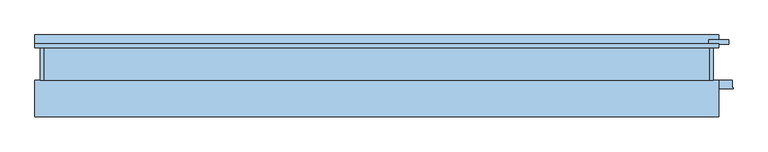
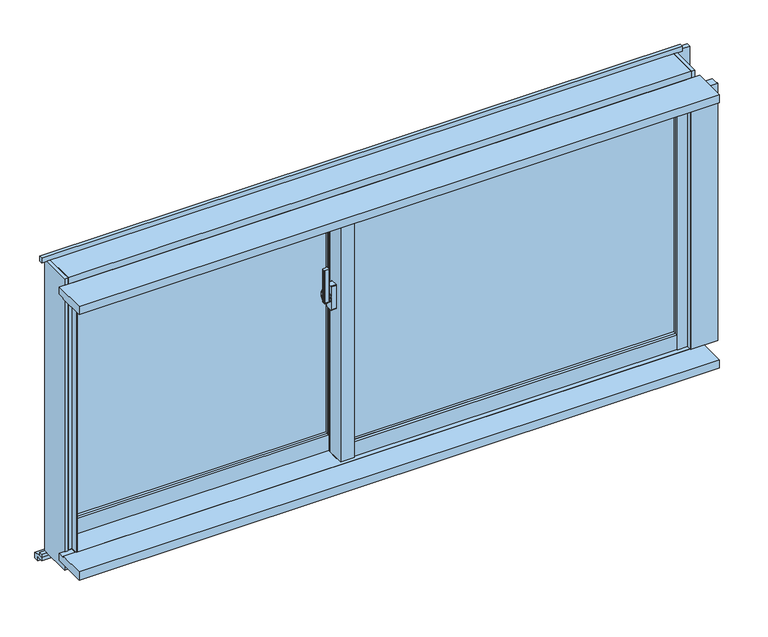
"""IFC4 building model written with IfcOpenShell, lengths in millimetres: window geometry, FNSⅡ100R_非防火_ALC枠_単窓 : 外動片引."""

from ifc_helpers import new_model, si_unit, point, frame, frame_2d, origin, place, context, project, spatial, polyline, circle_curve, trimmed, segment, composite_curve, outline, extrude, faceted_brep, source, transform, mapped, element, save
from ifc_brep_helpers import plane_surface, cylinder_surface, revolved_surface, advanced_brep


def window_993b28ac(model_context):
    return source(origin(), model_context, "Body", "SolidModel", [
        extrude(outline(composite_curve([segment(polyline([(-139.0, 14.6), (-139.0, 6.4)]), True, "CONTINUOUS"), segment(trimmed(circle_curve(frame_2d((-141.0, 6.4)), 2.0), [point((-139.0, 6.4))], [point((-141.3606557, 4.4327869))], False, "CARTESIAN"), True, "CONTINUOUS"), segment(polyline([(-141.3606557, 4.4327869), (-152.3606557, 6.4494536)]), True, "CONTINUOUS"), segment(trimmed(circle_curve(frame_2d((-152.0, 8.4166667)), 2.0), [point((-152.3606557, 6.4494536))], [point((-154.0, 8.4166667))], False, "CARTESIAN"), True, "CONTINUOUS"), segment(polyline([(-154.0, 8.4166667), (-154.0, 12.5833333)]), True, "CONTINUOUS"), segment(trimmed(circle_curve(frame_2d((-152.0, 12.5833333)), 2.0), [point((-154.0, 12.5833333))], [point((-152.3606557, 14.5505464))], False, "CARTESIAN"), True, "CONTINUOUS"), segment(polyline([(-152.3606557, 14.5505464), (-141.3606557, 16.5672131)]), True, "CONTINUOUS"), segment(trimmed(circle_curve(frame_2d((-141.0, 14.6)), 2.0), [point((-141.3606557, 16.5672131))], [point((-139.0, 14.6))], False, "CARTESIAN"), True, "CONTINUOUS")], self_intersect=False)), frame((0.0, 0.0, 1390.0), z_axis=(0.0, 0.0, 1.0), x_axis=(1.0, 0.0, 0.0)), (0.0, 0.0, 1.0), 100.0),
        advanced_brep(
        [(-137.5, 18.8234285, 1421.7333311), (-145.5, 18.8234285, 1421.7333311), (-145.5, 18.4351999, 1420.2844424), (-139.0, 18.4351999, 1420.2844424), (-139.0, 16.6234666, 1413.5229616), (-137.5, 16.6234666, 1413.5229616), (-139.0, 16.6466117, 1379.3190372), (-145.5, 16.6466117, 1379.3190372), (-145.5, 16.907084, 1377.8418256), (-137.5, 16.907084, 1377.8418256), (-137.5, 15.4310745, 1386.2126915), (-139.0, 15.4310745, 1386.2126915)],
        [
            (0, 1),
            (1, 2),
            (2, 3),
            (3, 4),
            (4, 5),
            (5, 0),
            (6, 7),
            (7, 8),
            (8, 9),
            (9, 10),
            (10, 11),
            (11, 6),
            (0, 9, circle_curve(frame((-137.5, 13.0, 1400.0), z_axis=(-1.0, 0.0, 0.0), x_axis=(0.0, 0.25881904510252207, 0.965925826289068)), 22.5)),
            (8, 1, circle_curve(frame((-145.5, 13.0, 1400.0), z_axis=(1.0, 0.0, 0.0), x_axis=(0.0, 0.25881904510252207, 0.965925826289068)), 22.5)),
            (7, 2, circle_curve(frame((-145.5, 13.0, 1400.0), z_axis=(1.0, 0.0, 0.0), x_axis=(0.0, 0.25881904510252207, 0.965925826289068)), 21.0)),
            (6, 3, circle_curve(frame((-139.0, 13.0, 1400.0), z_axis=(1.0, 0.0, 0.0), x_axis=(0.0, 0.25881904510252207, 0.965925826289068)), 21.0)),
            (11, 4, circle_curve(frame((-139.0, 13.0, 1400.0), z_axis=(-1.0, 0.0, 0.0), x_axis=(0.0, -1.0, 0.0)), 14.0)),
            (5, 10, circle_curve(frame((-137.5, 13.0, 1400.0), z_axis=(1.0, 0.0, 0.0), x_axis=(0.0, -1.0, 0.0)), 14.0)),
        ],
        [
            plane_surface(frame((-143.5470497, 13.0, 1400.0), z_axis=(0.0, -0.965925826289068, 0.25881904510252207), x_axis=(0.0, 0.25881904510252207, 0.965925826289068))),
            plane_surface(frame((-143.5470497, 13.0, 1400.0), z_axis=(0.0, -0.9848077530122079, -0.17364817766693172), x_axis=(0.0, 0.17364817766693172, -0.9848077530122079))),
            cylinder_surface(frame((-143.5470497, 13.0, 1400.0), z_axis=(-1.0, 0.0, 0.0), x_axis=(0.0, 0.25881904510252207, 0.965925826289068)), 22.5),
            plane_surface(frame((-145.5, 13.0, 1400.0), z_axis=(-1.0, 0.0, 0.0), x_axis=(0.0, 0.25881904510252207, 0.965925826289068))),
            revolved_surface(polyline([(-145.5, 18.435199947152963, 1420.2844423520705), (-139.0, 18.435199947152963, 1420.2844423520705)]), (-143.5470497, 13.0, 1400.0), (-1.0, 0.0, 0.0)),
            plane_surface(frame((-139.0, 13.0, 1400.0), z_axis=(-1.0, 0.0, 0.0), x_axis=(0.0, 0.25881904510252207, 0.965925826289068))),
            plane_surface(frame((-137.5, 13.0, 1400.0), z_axis=(1.0, 0.0, 0.0), x_axis=(0.0, 0.25881904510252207, 0.965925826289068))),
            cylinder_surface(frame((-137.5, 13.0, 1400.0), z_axis=(-1.0, 0.0, 0.0), x_axis=(0.0, -1.0, 0.0)), 14.0),
        ],
        [
            (0, [[1, 2, 3, 4, 5, 6]]),
            (1, [[7, 8, 9, 10, 11, 12]]),
            (2, [[-1, 13, -9, 14]]),
            (3, [[-2, -14, -8, 15]]),
            (4, [[-3, -15, -7, 16]]),
            (5, [[-16, -12, 17, -4]]),
            (6, [[-13, -6, 18, -10]]),
            (7, [[-17, -11, -18, -5]]),
        ],
    ),
        extrude(outline(composite_curve([segment(trimmed(circle_curve(frame_2d((13.0, 1400.0)), 11.5), [point((24.5, 1400.0))], [point((1.5, 1400.0))], False, "CARTESIAN"), True, "CONTINUOUS"), segment(trimmed(circle_curve(frame_2d((13.0, 1400.0)), 11.5), [point((1.5, 1400.0))], [point((24.5, 1400.0))], False, "CARTESIAN"), True, "CONTINUOUS")], self_intersect=False)), frame((-137.5, 0.0, 0.0), z_axis=(1.0, 0.0, 0.0), x_axis=(0.0, 1.0, 0.0)), (0.0, 0.0, 1.0), 2.5),
        extrude(outline(composite_curve([segment(polyline([(4.0, 1437.5), (22.0, 1437.5)]), True, "CONTINUOUS"), segment(trimmed(circle_curve(frame_2d((22.0, 1435.5)), 2.0), [point((22.0, 1437.5))], [point((24.0, 1435.5))], False, "CARTESIAN"), True, "CONTINUOUS"), segment(polyline([(24.0, 1435.5), (24.0, 1364.5)]), True, "CONTINUOUS"), segment(trimmed(circle_curve(frame_2d((22.0, 1364.5)), 2.0), [point((24.0, 1364.5))], [point((22.0, 1362.5))], False, "CARTESIAN"), True, "CONTINUOUS"), segment(polyline([(22.0, 1362.5), (4.0, 1362.5)]), True, "CONTINUOUS"), segment(trimmed(circle_curve(frame_2d((4.0, 1364.5)), 2.0), [point((4.0, 1362.5))], [point((2.0, 1364.5))], False, "CARTESIAN"), True, "CONTINUOUS"), segment(polyline([(2.0, 1364.5), (2.0, 1435.5)]), True, "CONTINUOUS"), segment(trimmed(circle_curve(frame_2d((4.0, 1435.5)), 2.0), [point((2.0, 1435.5))], [point((4.0, 1437.5))], False, "CARTESIAN"), True, "CONTINUOUS")], self_intersect=False)), frame((-135.0, 0.0, 0.0), z_axis=(1.0, 0.0, 0.0), x_axis=(0.0, 1.0, 0.0)), (0.0, 0.0, 1.0), 15.0),
        extrude(outline(polyline([(-80.0, 4.0), (868.0, 4.0), (868.0, -2.0), (-80.0, -2.0), (-80.0, 4.0)])), frame((0.0, 0.0, 948.0), z_axis=(0.0, 0.0, 1.0), x_axis=(1.0, 0.0, 0.0)), (0.0, 0.0, 1.0), 712.0),
        extrude(outline(polyline([(-80.0, 22.0), (868.0, 22.0), (868.0, 16.0), (-80.0, 16.0), (-80.0, 22.0)])), frame((0.0, 0.0, 948.0), z_axis=(0.0, 0.0, 1.0), x_axis=(1.0, 0.0, 0.0)), (0.0, 0.0, 1.0), 712.0),
        extrude(outline(polyline([(-868.0, 62.0), (-120.0, 62.0), (-120.0, 56.0), (-868.0, 56.0), (-868.0, 62.0)])), frame((0.0, 0.0, 948.0), z_axis=(0.0, 0.0, 1.0), x_axis=(1.0, 0.0, 0.0)), (0.0, 0.0, 1.0), 712.0),
        extrude(outline(polyline([(-868.0, 80.0), (-120.0, 80.0), (-120.0, 74.0), (-868.0, 74.0), (-868.0, 80.0)])), frame((0.0, 0.0, 948.0), z_axis=(0.0, 0.0, 1.0), x_axis=(1.0, 0.0, 0.0)), (0.0, 0.0, 1.0), 712.0),
        faceted_brep([(-900.0, 59.0, 1700.0), (-889.5, 59.0, 1700.0), (-889.5, 46.0, 1700.0), (-868.0, 46.0, 1700.0), (-868.0, 88.0, 1700.0), (-900.0, 88.0, 1700.0), (-868.0, 59.0, 860.0), (-900.0, 59.0, 860.0), (-900.0, 88.0, 860.0), (-868.0, 88.0, 860.0), (-868.0, 59.0, 900.0), (-889.5, 59.0, 900.0), (-889.5, 46.0, 900.0), (-868.0, 46.0, 900.0)], [[[0, 1, 2, 3, 4, 5]], [[6, 7, 8, 9]], [[1, 0, 7, 6, 10, 11]], [[2, 1, 11, 12]], [[3, 2, 12, 13]], [[4, 3, 13, 10, 6, 9]], [[5, 4, 9, 8]], [[7, 0, 5, 8]], [[11, 10, 13, 12]]]),
        faceted_brep([(-80.0, 59.0, 900.0), (-120.0, 59.0, 900.0), (-120.0, 59.0, 860.0), (-80.0, 59.0, 860.0), (-120.0, 45.5, 1700.0), (-101.8, 45.5, 1700.0), (-101.8, 33.1, 1700.0), (-80.0, 33.1, 1700.0), (-80.0, 88.0, 1700.0), (-120.0, 88.0, 1700.0), (-120.0, 88.0, 860.0), (-80.0, 88.0, 860.0), (-120.0, 45.5, 900.0), (-101.8, 45.5, 900.0), (-101.8, 33.1, 900.0), (-80.0, 33.1, 900.0)], [[[0, 1, 2, 3]], [[4, 5, 6, 7, 8, 9]], [[10, 11, 3, 2]], [[5, 4, 12, 13]], [[6, 5, 13, 14]], [[7, 6, 14, 15]], [[8, 7, 15, 0, 3, 11]], [[9, 8, 11, 10]], [[4, 9, 10, 2, 1, 12]], [[1, 0, 15, 14, 13, 12]]]),
        extrude(outline(polyline([(-120.0, 33.1), (-115.0, 33.1), (-115.0, -12.0), (-82.6, -12.0), (-82.6, -8.0), (-80.0, -8.0), (-80.0, -20.0), (-120.0, -20.0), (-120.0, 33.1)])), frame((0.0, 0.0, 900.0), z_axis=(0.0, 0.0, 1.0), x_axis=(1.0, 0.0, 0.0)), (0.0, 0.0, 1.0), 800.0),
        extrude(outline(polyline([(-115.0, 33.1), (-80.0, 33.1), (-80.0, -8.0), (-82.6, -8.0), (-82.6, -12.0), (-115.0, -12.0), (-115.0, 33.1)])), frame((0.0, 0.0, 900.0), z_axis=(0.0, 0.0, 1.0), x_axis=(1.0, 0.0, 0.0)), (0.0, 0.0, 1.0), 800.0),
        extrude(outline(polyline([(868.0, -20.0), (868.0, -12.0), (889.5, -12.0), (889.5, 1.0), (897.0, 1.0), (897.0, -20.0), (868.0, -20.0)])), frame((0.0, 0.0, 903.0), z_axis=(0.0, 0.0, 1.0), x_axis=(1.0, 0.0, 0.0)), (0.0, 0.0, 1.0), 797.0),
        extrude(outline(polyline([(868.0, 30.0), (900.0, 30.0), (900.0, 1.0), (889.5, 1.0), (889.5, -12.0), (868.0, -12.0), (868.0, 30.0)])), frame((0.0, 0.0, 900.0), z_axis=(0.0, 0.0, 1.0), x_axis=(1.0, 0.0, 0.0)), (0.0, 0.0, 1.0), 800.0),
        extrude(outline(polyline([(-101.8, 45.5), (-101.8, 38.0), (-120.0, 38.0), (-120.0, 45.5), (-101.8, 45.5)])), frame((0.0, 0.0, 900.0), z_axis=(0.0, 0.0, 1.0), x_axis=(1.0, 0.0, 0.0)), (0.0, 0.0, 1.0), 800.0),
        extrude(outline(polyline([(-897.0, 59.0), (-889.5, 59.0), (-889.5, 46.0), (-868.0, 46.0), (-868.0, 38.0), (-897.0, 38.0), (-897.0, 59.0)])), frame((0.0, 0.0, 900.0), z_axis=(0.0, 0.0, 1.0), x_axis=(1.0, 0.0, 0.0)), (0.0, 0.0, 1.0), 800.0),
        extrude(outline(polyline([(-18.0, 903.0), (-18.0, 948.0), (-10.0, 948.0), (-10.0, 925.5), (1.0, 925.5), (1.0, 903.0), (-18.0, 903.0)])), frame((-80.0, 0.0, 0.0), z_axis=(1.0, 0.0, 0.0), x_axis=(0.0, 1.0, 0.0)), (0.0, 0.0, 1.0), 948.0),
        extrude(outline(polyline([(30.0, 900.0), (1.0, 900.0), (1.0, 925.5), (-10.0, 925.5), (-10.0, 948.0), (30.0, 948.0), (30.0, 900.0)])), frame((-80.0, 0.0, 0.0), z_axis=(1.0, 0.0, 0.0), x_axis=(0.0, 1.0, 0.0)), (0.0, 0.0, 1.0), 948.0),
        extrude(outline(polyline([(40.0, 948.0), (48.0, 948.0), (48.0, 925.5), (59.0, 925.5), (59.0, 900.0), (40.0, 900.0), (40.0, 948.0)])), frame((-868.0, 0.0, 0.0), z_axis=(1.0, 0.0, 0.0), x_axis=(0.0, 1.0, 0.0)), (0.0, 0.0, 1.0), 748.0),
        extrude(outline(polyline([(88.0, 860.0), (59.0, 860.0), (59.0, 925.5), (48.0, 925.5), (48.0, 948.0), (88.0, 948.0), (88.0, 860.0)])), frame((-868.0, 0.0, 0.0), z_axis=(1.0, 0.0, 0.0), x_axis=(0.0, 1.0, 0.0)), (0.0, 0.0, 1.0), 748.0),
        extrude(outline(polyline([(3.0, 1680.5), (-10.0, 1680.5), (-10.0, 1660.0), (-18.0, 1660.0), (-18.0, 1700.0), (3.0, 1700.0), (3.0, 1680.5)])), frame((-80.0, 0.0, 0.0), z_axis=(1.0, 0.0, 0.0), x_axis=(0.0, 1.0, 0.0)), (0.0, 0.0, 1.0), 948.0),
        extrude(outline(polyline([(30.0, 1700.0), (30.0, 1660.0), (-10.0, 1660.0), (-10.0, 1680.5), (3.0, 1680.5), (3.0, 1700.0), (30.0, 1700.0)])), frame((-80.0, 0.0, 0.0), z_axis=(1.0, 0.0, 0.0), x_axis=(0.0, 1.0, 0.0)), (0.0, 0.0, 1.0), 948.0),
        extrude(outline(polyline([(61.0, 1680.5), (48.0, 1680.5), (48.0, 1660.0), (40.0, 1660.0), (40.0, 1700.0), (61.0, 1700.0), (61.0, 1680.5)])), frame((-868.0, 0.0, 0.0), z_axis=(1.0, 0.0, 0.0), x_axis=(0.0, 1.0, 0.0)), (0.0, 0.0, 1.0), 748.0),
        extrude(outline(polyline([(88.0, 1700.0), (88.0, 1660.0), (48.0, 1660.0), (48.0, 1680.5), (61.0, 1680.5), (61.0, 1700.0), (88.0, 1700.0)])), frame((-868.0, 0.0, 0.0), z_axis=(1.0, 0.0, 0.0), x_axis=(0.0, 1.0, 0.0)), (0.0, 0.0, 1.0), 748.0),
        extrude(outline(polyline([(-122.0, 60.3), (-122.0, 11.9), (-900.0, 11.9), (-900.0, 60.3), (-122.0, 60.3)])), frame((0.0, 0.0, 1700.0), z_axis=(0.0, 0.0, 1.0), x_axis=(1.0, 0.0, 0.0)), (0.0, 0.0, 1.0), 25.0),
        faceted_brep([(915.0, 60.3, 1725.0), (915.0, -10.0, 1725.0), (-915.0, -10.0, 1725.0), (-915.0, 60.3, 1725.0), (-122.0, 60.3, 1725.0), (-122.0, 11.9, 1725.0), (900.0, 11.9, 1725.0), (900.0, 60.3, 1725.0), (915.0, 60.3, 1700.0), (900.0, 60.3, 1700.0), (-915.0, 60.3, 1700.0), (-122.0, 60.3, 1700.0), (915.0, 90.0, 1700.0), (900.0, 11.9, 1700.0), (-122.0, 11.9, 1700.0), (-915.0, 90.0, 1700.0), (915.0, 90.0, 1745.0), (-915.0, 90.0, 1745.0), (915.0, -10.0, 1745.0), (-915.0, -10.0, 1745.0)], [[[0, 1, 2, 3, 4, 5, 6, 7]], [[8, 0, 7, 9]], [[3, 10, 11, 4]], [[12, 8, 9, 13, 14, 11, 10, 15]], [[16, 12, 15, 17]], [[18, 16, 17, 19]], [[1, 18, 19, 2]], [[12, 16, 18, 1, 0, 8]], [[15, 10, 3, 2, 19, 17]], [[6, 13, 9, 7]], [[11, 14, 5, 4]], [[13, 6, 5, 14]]]),
        extrude(outline(polyline([(11.9, 1700.0), (-30.0, 1700.0), (-30.0, 1703.0), (-10.0, 1703.0), (-10.0, 1725.0), (11.9, 1725.0), (11.9, 1700.0)])), frame((-900.0, 0.0, 0.0), z_axis=(1.0, 0.0, 0.0), x_axis=(0.0, 1.0, 0.0)), (0.0, 0.0, 1.0), 1800.0),
        faceted_brep([(900.0, -10.0, 1720.0), (915.0, -10.0, 1720.0), (915.0, -5.5, 1720.0), (900.0, -5.5, 1720.0), (900.0, -30.0, 900.0), (900.0, -5.5, 900.0), (915.0, -5.5, 900.0), (915.0, -10.0, 900.0), (903.0, -10.0, 900.0), (903.0, -30.0, 900.0), (903.0, -30.0, 1703.0), (900.0, -30.0, 1703.0), (903.0, -10.0, 1703.0), (900.0, -10.0, 1703.0)], [[[0, 1, 2, 3]], [[4, 5, 6, 7, 8, 9]], [[4, 9, 10, 11]], [[9, 8, 12, 10]], [[0, 13, 12, 8, 7, 1]], [[2, 1, 7, 6]], [[3, 2, 6, 5]], [[5, 4, 11, 13, 0, 3]], [[12, 13, 11, 10]]]),
        faceted_brep([(-915.0, -10.0, 1720.0), (-900.0, -10.0, 1720.0), (-900.0, 56.0, 1720.0), (-915.0, 56.0, 1720.0), (-915.0, -10.0, 900.0), (-915.0, 56.0, 900.0), (-900.0, 56.0, 900.0), (-900.0, -30.0, 900.0), (-903.0, -30.0, 900.0), (-903.0, -10.0, 900.0), (-903.0, -10.0, 1703.0), (-900.0, -10.0, 1703.0), (-903.0, -30.0, 1703.0), (-900.0, -30.0, 1703.0)], [[[0, 1, 2, 3]], [[4, 5, 6, 7, 8, 9]], [[4, 9, 10, 11, 1, 0]], [[9, 8, 12, 10]], [[8, 7, 13, 12]], [[7, 6, 2, 1, 11, 13]], [[3, 2, 6, 5]], [[4, 0, 3, 5]], [[11, 10, 12, 13]]]),
        faceted_brep([(-925.0, 90.0, 1745.0), (-925.0, -10.0, 1745.0), (-915.0, -10.0, 1745.0), (-915.0, 90.0, 1745.0), (-925.0, 90.0, 840.0), (-915.0, 90.0, 840.0), (-915.0, -10.0, 840.0), (-925.0, -10.0, 840.0), (-915.0, 90.0, 849.0), (-915.0, 56.0, 849.0), (-915.0, 56.0, 1700.0), (-915.0, 90.0, 1700.0), (-900.0, 90.0, 1700.0), (-900.0, 90.0, 849.0), (-900.0, 56.0, 1700.0), (-900.0, 56.0, 849.0)], [[[0, 1, 2, 3]], [[4, 5, 6, 7]], [[1, 0, 4, 7]], [[2, 1, 7, 6]], [[3, 2, 6, 5, 8, 9, 10, 11]], [[0, 3, 11, 12, 13, 8, 5, 4]], [[12, 11, 10, 14]], [[13, 15, 9, 8]], [[14, 10, 9, 15]], [[12, 14, 15, 13]]]),
        faceted_brep([(915.0, -10.0, 1745.0), (925.0, -10.0, 1745.0), (925.0, 90.0, 1745.0), (915.0, 90.0, 1745.0), (915.0, -10.0, 840.0), (915.0, 90.0, 840.0), (925.0, 90.0, 840.0), (925.0, -10.0, 840.0), (915.0, -5.5, 1700.0), (900.0, -5.5, 1700.0), (900.0, -5.5, 849.0), (915.0, -5.5, 849.0), (900.0, 90.0, 1700.0), (900.0, 90.0, 849.0), (915.0, 90.0, 1700.0), (915.0, 90.0, 849.0)], [[[0, 1, 2, 3]], [[4, 5, 6, 7]], [[8, 9, 10, 11]], [[9, 12, 13, 10]], [[9, 8, 14, 12]], [[10, 13, 15, 11]], [[1, 0, 4, 7]], [[2, 1, 7, 6]], [[3, 2, 6, 5, 15, 13, 12, 14]], [[0, 3, 14, 8, 11, 15, 5, 4]]]),
        faceted_brep([(900.0, 17.25, 900.0), (900.0, 17.25, 884.0), (-122.0, 17.25, 884.0), (-122.0, 17.25, 900.0), (915.0, -10.0, 884.0), (915.0, 56.0, 884.0), (-915.0, 56.0, 884.0), (-915.0, -10.0, 884.0), (900.0, -1.2, 884.0), (-122.0, -1.2, 884.0), (915.0, 56.0, 849.0), (-915.0, 56.0, 849.0), (915.0, 90.0, 849.0), (-915.0, 90.0, 849.0), (915.0, 90.0, 840.0), (915.0, -10.0, 840.0), (-915.0, -10.0, 840.0), (-915.0, 90.0, 840.0), (900.0, -1.2, 900.0), (-122.0, -1.2, 900.0)], [[[0, 1, 2, 3]], [[4, 5, 6, 7], [1, 8, 9, 2]], [[5, 10, 11, 6]], [[10, 12, 13, 11]], [[14, 15, 16, 17]], [[14, 12, 10, 5, 4, 15]], [[17, 16, 7, 6, 11, 13]], [[15, 4, 7, 16]], [[12, 14, 17, 13]], [[18, 8, 1, 0]], [[19, 3, 2, 9]], [[8, 18, 19, 9]], [[18, 0, 3, 19]]]),
        faceted_brep([(-900.0, 56.0, 900.0), (-900.0, 56.0, 884.0), (-900.0, -1.2, 884.0), (-900.0, -1.2, 900.0), (903.0, -30.0, 900.0), (903.0, -30.0, 897.0), (903.0, -10.0, 897.0), (903.0, -10.0, 884.0), (903.0, -5.5, 884.0), (903.0, -5.5, 900.0), (-903.0, -10.0, 884.0), (-903.0, -10.0, 897.0), (-903.0, -30.0, 897.0), (-903.0, -30.0, 900.0), (-903.0, -1.2, 900.0), (-903.0, -1.2, 884.0), (900.0, -5.5, 900.0), (900.0, -1.2, 900.0), (-122.0, -1.2, 900.0), (-122.0, 56.0, 900.0), (900.0, -1.2, 884.0), (-122.0, -1.2, 884.0), (-122.0, 56.0, 884.0), (900.0, -5.5, 884.0)], [[[0, 1, 2, 3]], [[4, 5, 6, 7, 8, 9]], [[10, 11, 12, 13, 14, 15]], [[7, 6, 11, 10]], [[6, 5, 12, 11]], [[5, 4, 13, 12]], [[14, 13, 4, 9, 16, 17, 18, 19, 0, 3]], [[15, 14, 3, 2]], [[17, 20, 21, 18]], [[10, 15, 2, 1, 22, 21, 20, 23, 8, 7]], [[16, 23, 20, 17]], [[23, 16, 9, 8]], [[19, 18, 21, 22]], [[19, 22, 1, 0]]]),
        extrude(outline(polyline([(-110.0, 900.0), (-30.0, 900.0), (-30.0, 897.0), (-10.0, 897.0), (-10.0, 875.0), (-110.0, 875.0), (-110.0, 900.0)])), frame((-940.0, 0.0, 0.0), z_axis=(1.0, 0.0, 0.0), x_axis=(0.0, 1.0, 0.0)), (0.0, 0.0, 1.0), 1880.0),
        extrude(outline(polyline([(-940.0, 80.0), (-940.0, 90.0), (940.0, 90.0), (940.0, 80.0), (-940.0, 80.0)])), frame((0.0, 0.0, 830.0), z_axis=(0.0, 0.0, 1.0), x_axis=(1.0, 0.0, 0.0)), (0.0, 0.0, 1.0), 10.0),
        extrude(outline(polyline([(100.0, 807.0), (100.0, 820.0), (80.0, 820.0), (80.0, 830.0), (90.0, 830.0), (115.0, 825.0), (115.0, 807.0), (100.0, 807.0)])), frame((-940.0, 0.0, 0.0), z_axis=(1.0, 0.0, 0.0), x_axis=(0.0, 1.0, 0.0)), (0.0, 0.0, 1.0), 1880.0),
        extrude(outline(polyline([(903.0, -30.0), (903.0, -10.0), (977.0, -10.0), (977.0, -30.0), (980.0, -30.0), (980.0, -32.5), (900.0, -32.5), (900.0, -30.0), (903.0, -30.0)])), frame((0.0, 0.0, 900.0), z_axis=(0.0, 0.0, 1.0), x_axis=(1.0, 0.0, 0.0)), (0.0, 0.0, 1.0), 800.0),
        extrude(outline(polyline([(967.5, 90.0), (912.5, 90.0), (912.5, 102.0), (967.5, 102.0), (967.5, 90.0)])), frame((0.0, 0.0, 840.0), z_axis=(0.0, 0.0, 1.0), x_axis=(1.0, 0.0, 0.0)), (0.0, 0.0, 1.0), 905.0),
        extrude(outline(polyline([(-110.0, 1725.0), (-10.0, 1725.0), (-10.0, 1703.0), (-30.0, 1703.0), (-30.0, 1700.0), (-110.0, 1700.0), (-110.0, 1725.0)])), frame((-940.0, 0.0, 0.0), z_axis=(1.0, 0.0, 0.0), x_axis=(0.0, 1.0, 0.0)), (0.0, 0.0, 1.0), 1880.0),
        extrude(outline(polyline([(-940.0, 80.0), (-940.0, 90.0), (940.0, 90.0), (940.0, 80.0), (-940.0, 80.0)])), frame((0.0, 0.0, 1745.0), z_axis=(0.0, 0.0, 1.0), x_axis=(1.0, 0.0, 0.0)), (0.0, 0.0, 1.0), 15.0),
    ])


if __name__ == "__main__":
    model = new_model("IFC4")
    model_context = context("Model", 3, world=origin())
    ifc_project = project(units=[si_unit("LENGTHUNIT", "METRE", prefix="MILLI")], contexts=[model_context])
    site = spatial("IfcSite", under=ifc_project)
    building = spatial("IfcBuilding", under=site)
    placement = place(None, origin())
    window_shape = window_993b28ac(model_context)
    element("IfcWindow", 1, ObjectType="FNSⅡ100R_非防火_ALC枠_単窓 : 外動片引", at=placement, inside=building, context=model_context, shape_type="MappedRepresentation", body=[
        mapped(window_shape, transform((0.0, 0.0, 0.0), x_axis=(1.0, 0.0, 0.0), y_axis=(0.0, 1.0, 0.0), z_axis=(0.0, 0.0, 1.0))),
    ])
    save(model, "model.ifc")
